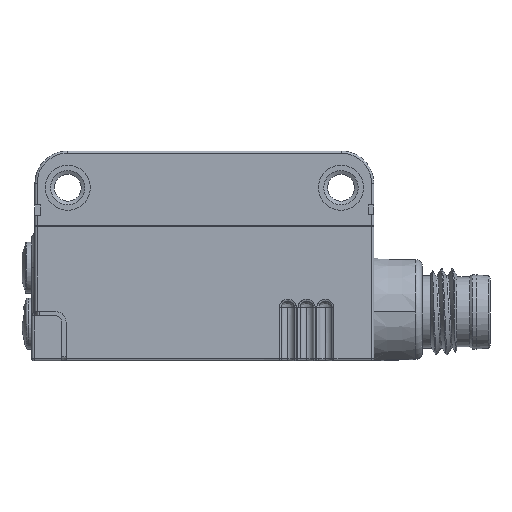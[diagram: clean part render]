
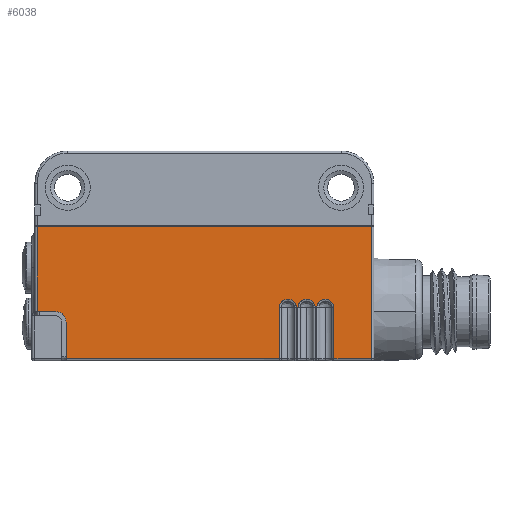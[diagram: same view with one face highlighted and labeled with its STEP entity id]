
A CAD part, left-side view. The second image highlights one B-rep face of the part: STEP entity #6038.
In plain terms, the highlighted planar face has unit normal (-1, 0, 0).
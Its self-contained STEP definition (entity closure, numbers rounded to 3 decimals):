
#1543=B_SPLINE_CURVE_WITH_KNOTS('',3,(#74295,#74296,#74297,#74298,#74299,
#74300,#74301,#74302,#74303,#74304,#74305,#74306,#74307,#74308),
 .UNSPECIFIED.,.F.,.F.,(4,2,2,2,2,2,4),(0.,0.125,0.25,0.5,0.75,0.875,1.),
 .UNSPECIFIED.);
#1544=B_SPLINE_CURVE_WITH_KNOTS('',3,(#74316,#74317,#74318,#74319,#74320,
#74321,#74322,#74323,#74324,#74325,#74326,#74327,#74328,#74329),
 .UNSPECIFIED.,.F.,.F.,(4,2,2,2,2,2,4),(0.,0.125,0.25,0.5,0.75,0.875,1.),
 .UNSPECIFIED.);
#1545=B_SPLINE_CURVE_WITH_KNOTS('',3,(#74337,#74338,#74339,#74340,#74341,
#74342,#74343,#74344,#74345,#74346,#74347,#74348,#74349,#74350),
 .UNSPECIFIED.,.F.,.F.,(4,2,2,2,2,2,4),(0.,0.125,0.25,0.5,0.75,0.875,1.),
 .UNSPECIFIED.);
#3732=CIRCLE('',#46000,1.);
#3758=CIRCLE('',#46039,1309.533);
#6038=ADVANCED_FACE('',(#9664),#7911,.T.);
#7911=PLANE('',#46634);
#9664=FACE_OUTER_BOUND('',#12120,.T.);
#12120=EDGE_LOOP('',(#19010,#19011,#19012,#19013,#19014,#19015,#19016,#19017,
#19018,#19019,#19020,#19021,#19022,#19023,#19024,#19025,#19026,#19027,#19028));
#19010=ORIENTED_EDGE('',*,*,#31755,.F.);
#19011=ORIENTED_EDGE('',*,*,#31680,.F.);
#19012=ORIENTED_EDGE('',*,*,#31666,.F.);
#19013=ORIENTED_EDGE('',*,*,#33789,.T.);
#19014=ORIENTED_EDGE('',*,*,#33790,.T.);
#19015=ORIENTED_EDGE('',*,*,#33791,.T.);
#19016=ORIENTED_EDGE('',*,*,#33792,.T.);
#19017=ORIENTED_EDGE('',*,*,#33793,.T.);
#19018=ORIENTED_EDGE('',*,*,#33794,.T.);
#19019=ORIENTED_EDGE('',*,*,#33795,.T.);
#19020=ORIENTED_EDGE('',*,*,#33796,.T.);
#19021=ORIENTED_EDGE('',*,*,#33797,.T.);
#19022=ORIENTED_EDGE('',*,*,#33798,.T.);
#19023=ORIENTED_EDGE('',*,*,#33799,.T.);
#19024=ORIENTED_EDGE('',*,*,#33800,.T.);
#19025=ORIENTED_EDGE('',*,*,#33801,.T.);
#19026=ORIENTED_EDGE('',*,*,#33802,.T.);
#19027=ORIENTED_EDGE('',*,*,#33803,.F.);
#19028=ORIENTED_EDGE('',*,*,#33804,.T.);
#27104=VERTEX_POINT('',#62981);
#27105=VERTEX_POINT('',#62983);
#27115=VERTEX_POINT('',#63133);
#27178=VERTEX_POINT('',#63442);
#28499=VERTEX_POINT('',#74290);
#28500=VERTEX_POINT('',#74294);
#28501=VERTEX_POINT('',#74309);
#28502=VERTEX_POINT('',#74311);
#28503=VERTEX_POINT('',#74313);
#28504=VERTEX_POINT('',#74315);
#28505=VERTEX_POINT('',#74330);
#28506=VERTEX_POINT('',#74332);
#28507=VERTEX_POINT('',#74334);
#28508=VERTEX_POINT('',#74336);
#28509=VERTEX_POINT('',#74351);
#28510=VERTEX_POINT('',#74353);
#28511=VERTEX_POINT('',#74355);
#28512=VERTEX_POINT('',#74357);
#28513=VERTEX_POINT('',#74359);
#31666=EDGE_CURVE('',#27104,#27105,#37786,.T.);
#31680=EDGE_CURVE('',#27105,#27115,#3732,.T.);
#31755=EDGE_CURVE('',#27115,#27178,#3758,.T.);
#33789=EDGE_CURVE('',#27104,#28499,#39080,.T.);
#33790=EDGE_CURVE('',#28499,#28500,#39081,.T.);
#33791=EDGE_CURVE('',#28500,#28501,#1543,.T.);
#33792=EDGE_CURVE('',#28501,#28502,#39082,.T.);
#33793=EDGE_CURVE('',#28502,#28503,#39083,.T.);
#33794=EDGE_CURVE('',#28503,#28504,#39084,.T.);
#33795=EDGE_CURVE('',#28504,#28505,#1544,.T.);
#33796=EDGE_CURVE('',#28505,#28506,#39085,.T.);
#33797=EDGE_CURVE('',#28506,#28507,#39086,.T.);
#33798=EDGE_CURVE('',#28507,#28508,#39087,.T.);
#33799=EDGE_CURVE('',#28508,#28509,#1545,.T.);
#33800=EDGE_CURVE('',#28509,#28510,#39088,.T.);
#33801=EDGE_CURVE('',#28510,#28511,#39089,.T.);
#33802=EDGE_CURVE('',#28511,#28512,#39090,.T.);
#33803=EDGE_CURVE('',#28513,#28512,#39091,.T.);
#33804=EDGE_CURVE('',#28513,#27178,#39092,.T.);
#37786=LINE('',#62982,#41681);
#39080=LINE('',#74291,#43281);
#39081=LINE('',#74293,#43282);
#39082=LINE('',#74310,#43283);
#39083=LINE('',#74312,#43284);
#39084=LINE('',#74314,#43285);
#39085=LINE('',#74331,#43286);
#39086=LINE('',#74333,#43287);
#39087=LINE('',#74335,#43288);
#39088=LINE('',#74352,#43289);
#39089=LINE('',#74354,#43290);
#39090=LINE('',#74356,#43291);
#39091=LINE('',#74358,#43292);
#39092=LINE('',#74360,#43293);
#41681=VECTOR('',#50601,1.);
#43281=VECTOR('',#53471,1.);
#43282=VECTOR('',#53474,1.);
#43283=VECTOR('',#53475,1.);
#43284=VECTOR('',#53476,1.);
#43285=VECTOR('',#53477,1.);
#43286=VECTOR('',#53478,1.);
#43287=VECTOR('',#53479,1.);
#43288=VECTOR('',#53480,1.);
#43289=VECTOR('',#53481,1.);
#43290=VECTOR('',#53482,1.);
#43291=VECTOR('',#53483,1.);
#43292=VECTOR('',#53484,1.);
#43293=VECTOR('',#53485,1.);
#46000=AXIS2_PLACEMENT_3D('',#63132,#50610,#50611);
#46039=AXIS2_PLACEMENT_3D('',#63441,#50725,#50726);
#46634=AXIS2_PLACEMENT_3D('',#74361,#53486,#53487);
#50601=DIRECTION('',(0.,0.,1.));
#50610=DIRECTION('',(-1.,0.,0.));
#50611=DIRECTION('',(0.,-1.,0.));
#50725=DIRECTION('',(1.,0.,0.));
#50726=DIRECTION('',(0.,1.,0.));
#53471=DIRECTION('',(0.,-1.,0.));
#53474=DIRECTION('',(0.,0.,1.));
#53475=DIRECTION('',(0.,0.,-1.));
#53476=DIRECTION('',(0.,-1.,0.));
#53477=DIRECTION('',(0.,0.,1.));
#53478=DIRECTION('',(0.,0.,-1.));
#53479=DIRECTION('',(0.,-1.,0.));
#53480=DIRECTION('',(0.,0.,1.));
#53481=DIRECTION('',(0.,0.,-1.));
#53482=DIRECTION('',(0.,-1.,0.));
#53483=DIRECTION('',(0.,0.,1.));
#53484=DIRECTION('',(0.,-1.,0.));
#53485=DIRECTION('',(0.,0.,-1.));
#53486=DIRECTION('',(-1.,0.,0.));
#53487=DIRECTION('',(0.,1.,0.));
#62981=CARTESIAN_POINT('',(-5.4,12.85,-19.3));
#62982=CARTESIAN_POINT('',(-5.4,12.85,-14.898));
#62983=CARTESIAN_POINT('',(-5.4,12.85,-15.9));
#63132=CARTESIAN_POINT('',(-5.4,13.85,-15.9));
#63133=CARTESIAN_POINT('',(-5.4,13.851,-14.9));
#63441=CARTESIAN_POINT('',(-5.4,14.985,1294.633));
#63442=CARTESIAN_POINT('',(-5.4,15.55,-14.9));
#74290=CARTESIAN_POINT('',(-5.4,-6.955,-19.3));
#74291=CARTESIAN_POINT('',(-5.4,2.473,-19.3));
#74293=CARTESIAN_POINT('',(-5.4,-6.955,-16.9));
#74294=CARTESIAN_POINT('',(-5.4,-6.955,-14.5));
#74295=CARTESIAN_POINT('',(-5.4,-6.955,-14.5));
#74296=CARTESIAN_POINT('',(-5.4,-6.955,-14.4));
#74297=CARTESIAN_POINT('',(-5.4,-6.983,-14.303));
#74298=CARTESIAN_POINT('',(-5.4,-7.072,-14.127));
#74299=CARTESIAN_POINT('',(-5.4,-7.135,-14.048));
#74300=CARTESIAN_POINT('',(-5.4,-7.356,-13.852));
#74301=CARTESIAN_POINT('',(-5.4,-7.552,-13.777));
#74302=CARTESIAN_POINT('',(-5.4,-7.947,-13.777));
#74303=CARTESIAN_POINT('',(-5.4,-8.143,-13.85));
#74304=CARTESIAN_POINT('',(-5.4,-8.366,-14.048));
#74305=CARTESIAN_POINT('',(-5.4,-8.427,-14.126));
#74306=CARTESIAN_POINT('',(-5.4,-8.517,-14.303));
#74307=CARTESIAN_POINT('',(-5.4,-8.545,-14.4));
#74308=CARTESIAN_POINT('',(-5.4,-8.545,-14.5));
#74309=CARTESIAN_POINT('',(-5.4,-8.545,-14.5));
#74310=CARTESIAN_POINT('',(-5.4,-8.545,-16.9));
#74311=CARTESIAN_POINT('',(-5.4,-8.545,-19.3));
#74312=CARTESIAN_POINT('',(-5.4,-8.625,-19.3));
#74313=CARTESIAN_POINT('',(-5.4,-8.705,-19.3));
#74314=CARTESIAN_POINT('',(-5.4,-8.705,-16.9));
#74315=CARTESIAN_POINT('',(-5.4,-8.705,-14.5));
#74316=CARTESIAN_POINT('',(-5.4,-8.705,-14.5));
#74317=CARTESIAN_POINT('',(-5.4,-8.705,-14.4));
#74318=CARTESIAN_POINT('',(-5.4,-8.733,-14.303));
#74319=CARTESIAN_POINT('',(-5.4,-8.822,-14.127));
#74320=CARTESIAN_POINT('',(-5.4,-8.885,-14.048));
#74321=CARTESIAN_POINT('',(-5.4,-9.106,-13.852));
#74322=CARTESIAN_POINT('',(-5.4,-9.302,-13.777));
#74323=CARTESIAN_POINT('',(-5.4,-9.697,-13.777));
#74324=CARTESIAN_POINT('',(-5.4,-9.893,-13.85));
#74325=CARTESIAN_POINT('',(-5.4,-10.116,-14.048));
#74326=CARTESIAN_POINT('',(-5.4,-10.177,-14.126));
#74327=CARTESIAN_POINT('',(-5.4,-10.267,-14.303));
#74328=CARTESIAN_POINT('',(-5.4,-10.295,-14.4));
#74329=CARTESIAN_POINT('',(-5.4,-10.295,-14.5));
#74330=CARTESIAN_POINT('',(-5.4,-10.295,-14.5));
#74331=CARTESIAN_POINT('',(-5.4,-10.295,-16.9));
#74332=CARTESIAN_POINT('',(-5.4,-10.295,-19.3));
#74333=CARTESIAN_POINT('',(-5.4,-10.375,-19.3));
#74334=CARTESIAN_POINT('',(-5.4,-10.455,-19.3));
#74335=CARTESIAN_POINT('',(-5.4,-10.455,-16.9));
#74336=CARTESIAN_POINT('',(-5.4,-10.455,-14.5));
#74337=CARTESIAN_POINT('',(-5.4,-10.455,-14.5));
#74338=CARTESIAN_POINT('',(-5.4,-10.455,-14.4));
#74339=CARTESIAN_POINT('',(-5.4,-10.483,-14.303));
#74340=CARTESIAN_POINT('',(-5.4,-10.572,-14.127));
#74341=CARTESIAN_POINT('',(-5.4,-10.635,-14.048));
#74342=CARTESIAN_POINT('',(-5.4,-10.856,-13.852));
#74343=CARTESIAN_POINT('',(-5.4,-11.052,-13.777));
#74344=CARTESIAN_POINT('',(-5.4,-11.447,-13.777));
#74345=CARTESIAN_POINT('',(-5.4,-11.643,-13.85));
#74346=CARTESIAN_POINT('',(-5.4,-11.866,-14.048));
#74347=CARTESIAN_POINT('',(-5.4,-11.927,-14.126));
#74348=CARTESIAN_POINT('',(-5.4,-12.017,-14.303));
#74349=CARTESIAN_POINT('',(-5.4,-12.045,-14.4));
#74350=CARTESIAN_POINT('',(-5.4,-12.045,-14.5));
#74351=CARTESIAN_POINT('',(-5.4,-12.045,-14.5));
#74352=CARTESIAN_POINT('',(-5.4,-12.045,-16.9));
#74353=CARTESIAN_POINT('',(-5.4,-12.045,-19.3));
#74354=CARTESIAN_POINT('',(-5.4,-13.798,-19.3));
#74355=CARTESIAN_POINT('',(-5.4,-15.55,-19.3));
#74356=CARTESIAN_POINT('',(-5.4,-15.55,-13.15));
#74357=CARTESIAN_POINT('',(-5.4,-15.55,-7.));
#74358=CARTESIAN_POINT('',(-5.4,0.,-7.));
#74359=CARTESIAN_POINT('',(-5.4,15.55,-7.));
#74360=CARTESIAN_POINT('',(-5.4,15.55,-10.15));
#74361=CARTESIAN_POINT('',(-5.4,15.75,-7.));
